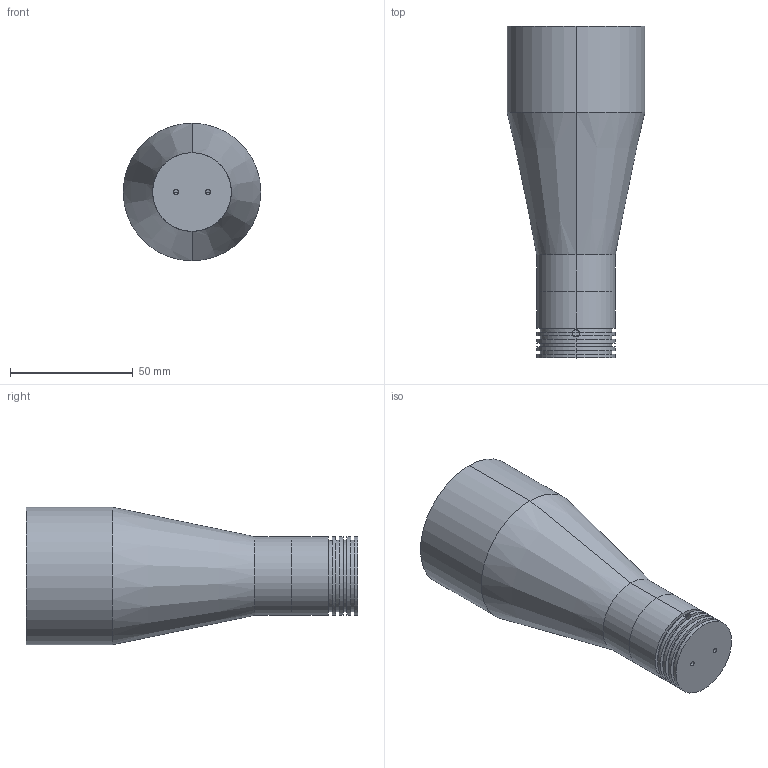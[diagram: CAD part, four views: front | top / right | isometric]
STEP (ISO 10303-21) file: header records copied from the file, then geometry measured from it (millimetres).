
FILE_DESCRIPTION (( 'STEP AP203' ), '1' );
FILE_NAME ('XF-TD50B.STEP', '2017-10-20T03:17:36', ( 'zhanghp' ), ( '' ), 'SwSTEP 2.0', 'SolidWorks 2014', '' );
FILE_SCHEMA (( 'CONFIG_CONTROL_DESIGN' ));
Length unit declared in the file: millimetre
Products named in the file (1): XF-TD50B
Bounding box: 56 x 134.99 x 56 mm (x, y, z)
Surface area: 25921.2 mm2 (no closed solid volume)
Topology: 0 solids, 5 shells, 56 faces, 138 edges, 93 vertices
Faces by surface type: cylinder 31, plane 21, cone 2, sphere 2
Entity records: 1849 total; most frequent: CARTESIAN_POINT 390, DIRECTION 322, ORIENTED_EDGE 248, EDGE_CURVE 138, AXIS2_PLACEMENT_3D 135, VERTEX_POINT 93, CIRCLE 78, EDGE_LOOP 68
